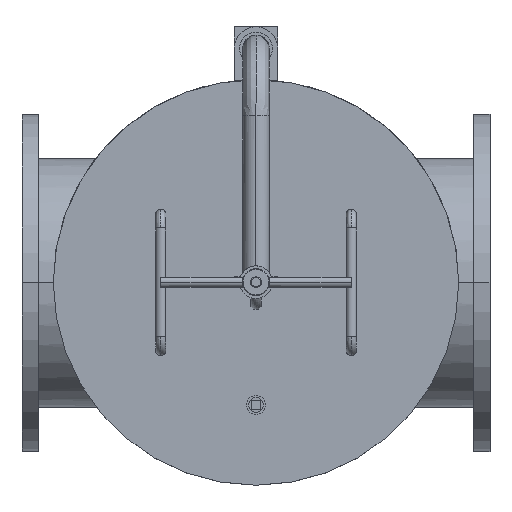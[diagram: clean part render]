
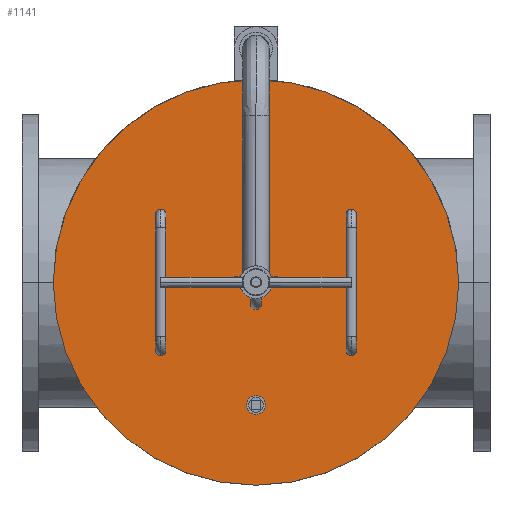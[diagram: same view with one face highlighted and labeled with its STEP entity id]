
A CAD part, top view. The second image highlights one B-rep face of the part: STEP entity #1141.
In plain terms, the highlighted planar face has unit normal (0, 0, 1).
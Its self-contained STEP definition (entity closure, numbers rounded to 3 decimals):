
#1141=ADVANCED_FACE('',(#1842,#1843,#1844,#1845,#1846,#1847,#1848,#1849),#1841,.F.);
#1841=PLANE('',#5563);
#1842=FACE_OUTER_BOUND('',#5564,.T.);
#1843=FACE_BOUND('',#5565,.T.);
#1844=FACE_BOUND('',#5566,.T.);
#1845=FACE_BOUND('',#5567,.T.);
#1846=FACE_BOUND('',#5568,.T.);
#1847=FACE_BOUND('',#5569,.T.);
#1848=FACE_BOUND('',#5570,.T.);
#1849=FACE_BOUND('',#5571,.T.);
#5560=CARTESIAN_POINT('',(755.,-655.189,495.));
#5561=DIRECTION('',(0.,0.,-1.));
#5562=DIRECTION('',(-1.,0.,0.));
#5563=AXIS2_PLACEMENT_3D('',#5560,#5561,#5562);
#5564=EDGE_LOOP('',(#8854,#8855));
#5565=EDGE_LOOP('',(#8856,#8857));
#5566=EDGE_LOOP('',(#8858,#8859));
#5567=EDGE_LOOP('',(#8860,#8861));
#5568=EDGE_LOOP('',(#8862,#8863));
#5569=EDGE_LOOP('',(#8864,#8865));
#5570=EDGE_LOOP('',(#8866,#8867));
#5571=EDGE_LOOP('',(#8868,#8869));
#8854=ORIENTED_EDGE('',*,*,#10473,.F.);
#8855=ORIENTED_EDGE('',*,*,#10474,.F.);
#8856=ORIENTED_EDGE('',*,*,#10475,.F.);
#8857=ORIENTED_EDGE('',*,*,#10476,.F.);
#8858=ORIENTED_EDGE('',*,*,#10477,.F.);
#8859=ORIENTED_EDGE('',*,*,#10478,.F.);
#8860=ORIENTED_EDGE('',*,*,#10479,.F.);
#8861=ORIENTED_EDGE('',*,*,#10480,.F.);
#8862=ORIENTED_EDGE('',*,*,#10481,.F.);
#8863=ORIENTED_EDGE('',*,*,#10482,.F.);
#8864=ORIENTED_EDGE('',*,*,#10483,.F.);
#8865=ORIENTED_EDGE('',*,*,#10484,.F.);
#8866=ORIENTED_EDGE('',*,*,#10485,.F.);
#8867=ORIENTED_EDGE('',*,*,#10486,.F.);
#8868=ORIENTED_EDGE('',*,*,#10487,.F.);
#8869=ORIENTED_EDGE('',*,*,#10488,.F.);
#10473=EDGE_CURVE('',#11929,#11930,#11931,.T.);
#10474=EDGE_CURVE('',#11930,#11929,#11937,.T.);
#10475=EDGE_CURVE('',#11943,#11944,#11945,.T.);
#10476=EDGE_CURVE('',#11944,#11943,#11951,.T.);
#10477=EDGE_CURVE('',#11957,#11958,#11959,.T.);
#10478=EDGE_CURVE('',#11958,#11957,#11965,.T.);
#10479=EDGE_CURVE('',#11971,#11972,#11973,.T.);
#10480=EDGE_CURVE('',#11972,#11971,#11979,.T.);
#10481=EDGE_CURVE('',#11985,#11986,#11987,.T.);
#10482=EDGE_CURVE('',#11986,#11985,#11993,.T.);
#10483=EDGE_CURVE('',#11999,#12000,#12001,.T.);
#10484=EDGE_CURVE('',#12000,#11999,#12007,.T.);
#10485=EDGE_CURVE('',#12013,#12014,#12015,.T.);
#10486=EDGE_CURVE('',#12014,#12013,#12021,.T.);
#10487=EDGE_CURVE('',#12027,#12028,#12029,.T.);
#10488=EDGE_CURVE('',#12028,#12027,#12035,.T.);
#11929=VERTEX_POINT('',#17234);
#11930=VERTEX_POINT('',#17235);
#11931=CIRCLE('',#17239,372.5);
#11937=CIRCLE('',#17243,372.5);
#11943=VERTEX_POINT('',#17244);
#11944=VERTEX_POINT('',#17245);
#11945=CIRCLE('',#17249,5.);
#11951=CIRCLE('',#17253,5.);
#11957=VERTEX_POINT('',#17254);
#11958=VERTEX_POINT('',#17255);
#11959=CIRCLE('',#17259,5.);
#11965=CIRCLE('',#17263,5.);
#11971=VERTEX_POINT('',#17264);
#11972=VERTEX_POINT('',#17265);
#11973=CIRCLE('',#17269,5.);
#11979=CIRCLE('',#17273,5.);
#11985=VERTEX_POINT('',#17274);
#11986=VERTEX_POINT('',#17275);
#11987=CIRCLE('',#17279,5.);
#11993=CIRCLE('',#17283,5.);
#11999=VERTEX_POINT('',#17284);
#12000=VERTEX_POINT('',#17285);
#12001=CIRCLE('',#17289,5.);
#12007=CIRCLE('',#17293,5.);
#12013=VERTEX_POINT('',#17294);
#12014=VERTEX_POINT('',#17295);
#12015=CIRCLE('',#17299,17.25);
#12021=CIRCLE('',#17303,17.25);
#12027=VERTEX_POINT('',#17304);
#12028=VERTEX_POINT('',#17305);
#12029=CIRCLE('',#17309,5.);
#12035=CIRCLE('',#17313,5.);
#17234=CARTESIAN_POINT('',(372.5,0.,495.));
#17235=CARTESIAN_POINT('',(-372.5,0.,495.));
#17236=CARTESIAN_POINT('',(0.,0.,495.));
#17237=DIRECTION('',(0.,0.,-1.));
#17238=DIRECTION('',(-1.,0.,0.));
#17239=AXIS2_PLACEMENT_3D('',#17236,#17237,#17238);
#17240=CARTESIAN_POINT('',(0.,0.,495.));
#17241=DIRECTION('',(0.,0.,-1.));
#17242=DIRECTION('',(-1.,0.,0.));
#17243=AXIS2_PLACEMENT_3D('',#17240,#17241,#17242);
#17244=CARTESIAN_POINT('',(45.,0.,495.));
#17245=CARTESIAN_POINT('',(35.,0.,495.));
#17246=CARTESIAN_POINT('',(40.,0.,495.));
#17247=DIRECTION('',(0.,0.,1.));
#17248=DIRECTION('',(-1.,0.,0.));
#17249=AXIS2_PLACEMENT_3D('',#17246,#17247,#17248);
#17250=CARTESIAN_POINT('',(40.,0.,495.));
#17251=DIRECTION('',(0.,0.,1.));
#17252=DIRECTION('',(-1.,0.,0.));
#17253=AXIS2_PLACEMENT_3D('',#17250,#17251,#17252);
#17254=CARTESIAN_POINT('',(-35.,0.,495.));
#17255=CARTESIAN_POINT('',(-45.,0.,495.));
#17256=CARTESIAN_POINT('',(-40.,0.,495.));
#17257=DIRECTION('',(0.,0.,1.));
#17258=DIRECTION('',(-1.,0.,0.));
#17259=AXIS2_PLACEMENT_3D('',#17256,#17257,#17258);
#17260=CARTESIAN_POINT('',(-40.,0.,495.));
#17261=DIRECTION('',(0.,0.,1.));
#17262=DIRECTION('',(-1.,0.,0.));
#17263=AXIS2_PLACEMENT_3D('',#17260,#17261,#17262);
#17264=CARTESIAN_POINT('',(-170.,-125.,495.));
#17265=CARTESIAN_POINT('',(-180.,-125.,495.));
#17266=CARTESIAN_POINT('',(-175.,-125.,495.));
#17267=DIRECTION('',(0.,0.,1.));
#17268=DIRECTION('',(-1.,0.,0.));
#17269=AXIS2_PLACEMENT_3D('',#17266,#17267,#17268);
#17270=CARTESIAN_POINT('',(-175.,-125.,495.));
#17271=DIRECTION('',(0.,0.,1.));
#17272=DIRECTION('',(-1.,0.,0.));
#17273=AXIS2_PLACEMENT_3D('',#17270,#17271,#17272);
#17274=CARTESIAN_POINT('',(-170.,125.,495.));
#17275=CARTESIAN_POINT('',(-180.,125.,495.));
#17276=CARTESIAN_POINT('',(-175.,125.,495.));
#17277=DIRECTION('',(0.,0.,1.));
#17278=DIRECTION('',(-1.,0.,0.));
#17279=AXIS2_PLACEMENT_3D('',#17276,#17277,#17278);
#17280=CARTESIAN_POINT('',(-175.,125.,495.));
#17281=DIRECTION('',(0.,0.,1.));
#17282=DIRECTION('',(-1.,0.,0.));
#17283=AXIS2_PLACEMENT_3D('',#17280,#17281,#17282);
#17284=CARTESIAN_POINT('',(180.,-125.,495.));
#17285=CARTESIAN_POINT('',(170.,-125.,495.));
#17286=CARTESIAN_POINT('',(175.,-125.,495.));
#17287=DIRECTION('',(0.,0.,1.));
#17288=DIRECTION('',(-1.,0.,0.));
#17289=AXIS2_PLACEMENT_3D('',#17286,#17287,#17288);
#17290=CARTESIAN_POINT('',(175.,-125.,495.));
#17291=DIRECTION('',(0.,0.,1.));
#17292=DIRECTION('',(-1.,0.,0.));
#17293=AXIS2_PLACEMENT_3D('',#17290,#17291,#17292);
#17294=CARTESIAN_POINT('',(-17.25,-225.,495.));
#17295=CARTESIAN_POINT('',(17.25,-225.,495.));
#17296=CARTESIAN_POINT('',(0.,-225.,495.));
#17297=DIRECTION('',(0.,0.,1.));
#17298=DIRECTION('',(1.,0.,0.));
#17299=AXIS2_PLACEMENT_3D('',#17296,#17297,#17298);
#17300=CARTESIAN_POINT('',(0.,-225.,495.));
#17301=DIRECTION('',(0.,0.,1.));
#17302=DIRECTION('',(1.,0.,0.));
#17303=AXIS2_PLACEMENT_3D('',#17300,#17301,#17302);
#17304=CARTESIAN_POINT('',(180.,125.,495.));
#17305=CARTESIAN_POINT('',(170.,125.,495.));
#17306=CARTESIAN_POINT('',(175.,125.,495.));
#17307=DIRECTION('',(0.,0.,1.));
#17308=DIRECTION('',(-1.,0.,0.));
#17309=AXIS2_PLACEMENT_3D('',#17306,#17307,#17308);
#17310=CARTESIAN_POINT('',(175.,125.,495.));
#17311=DIRECTION('',(0.,0.,1.));
#17312=DIRECTION('',(-1.,0.,0.));
#17313=AXIS2_PLACEMENT_3D('',#17310,#17311,#17312);
